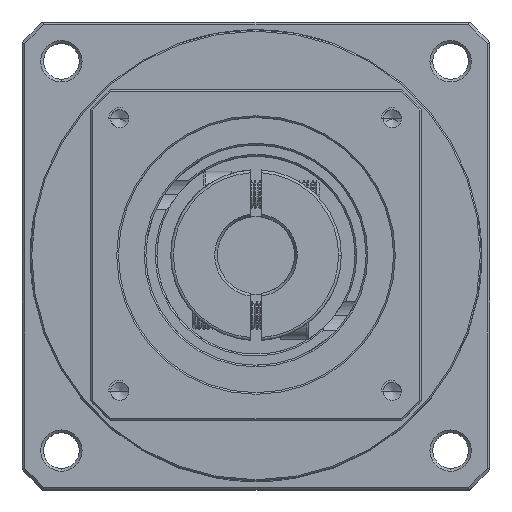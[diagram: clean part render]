
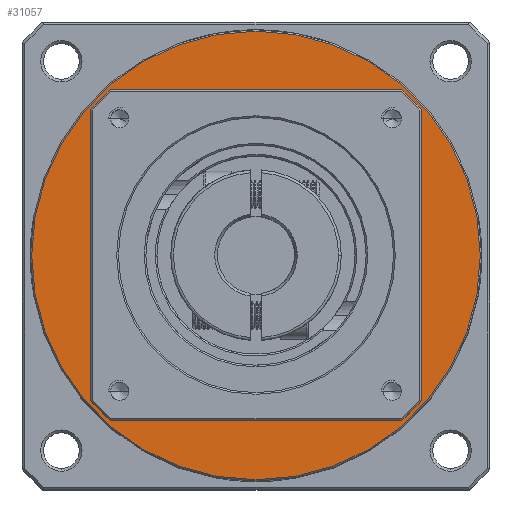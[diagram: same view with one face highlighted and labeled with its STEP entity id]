
A CAD part, top view. The second image highlights one B-rep face of the part: STEP entity #31057.
In plain terms, the highlighted planar face has unit normal (0, 0, 1).
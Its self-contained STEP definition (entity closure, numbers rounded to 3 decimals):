
#8827 = AXIS2_PLACEMENT_3D ( 'NONE', #73987, #24324, #82315 ) ;
#9789 = VERTEX_POINT ( 'NONE', #67425 ) ;
#13389 = PLANE ( 'NONE',  #22205 ) ;
#15275 = VERTEX_POINT ( 'NONE', #103029 ) ;
#15344 = VERTEX_POINT ( 'NONE', #97330 ) ;
#16767 = CARTESIAN_POINT ( 'NONE',  ( -62.127, 18.452, -15.806 ) ) ;
#22205 = AXIS2_PLACEMENT_3D ( 'NONE', #89751, #40108, #98020 ) ;
#23871 = EDGE_CURVE ( 'NONE', #93485, #15275, #72130, .T. ) ;
#24324 = DIRECTION ( 'NONE',  ( 0., 0., -1. ) ) ;
#25318 = DIRECTION ( 'NONE',  ( 0., 1., 0. ) ) ;
#28891 = ORIENTED_EDGE ( 'NONE', *, *, #33642, .F. ) ;
#30084 = FACE_OUTER_BOUND ( 'NONE', #30690, .T. ) ;
#30690 = EDGE_LOOP ( 'NONE', ( #28891, #103541 ) ) ;
#31057 = ADVANCED_FACE ( 'NONE', ( #30084, #93600 ), #13389, .T. ) ;
#32333 = CARTESIAN_POINT ( 'NONE',  ( -62.127, -22.298, -15.806 ) ) ;
#32512 = DIRECTION ( 'NONE',  ( 0., 0., -1. ) ) ;
#33163 = AXIS2_PLACEMENT_3D ( 'NONE', #82173, #32512, #90520 ) ;
#33642 = EDGE_CURVE ( 'NONE', #15275, #93485, #63924, .T. ) ;
#36668 = ORIENTED_EDGE ( 'NONE', *, *, #50720, .T. ) ;
#38660 = CIRCLE ( 'NONE', #8827, 30. ) ;
#39480 = AXIS2_PLACEMENT_3D ( 'NONE', #100962, #100939, #100811 ) ;
#40108 = DIRECTION ( 'NONE',  ( 0., 0., 1. ) ) ;
#40767 = AXIS2_PLACEMENT_3D ( 'NONE', #16767, #74958, #25318 ) ;
#45516 = CIRCLE ( 'NONE', #33163, 30. ) ;
#47673 = ORIENTED_EDGE ( 'NONE', *, *, #97584, .T. ) ;
#50720 = EDGE_CURVE ( 'NONE', #15344, #9789, #38660, .T. ) ;
#63924 = CIRCLE ( 'NONE', #40767, 40.75 ) ;
#67425 = CARTESIAN_POINT ( 'NONE',  ( -32.127, 18.452, -15.806 ) ) ;
#72130 = CIRCLE ( 'NONE', #39480, 40.75 ) ;
#73987 = CARTESIAN_POINT ( 'NONE',  ( -62.127, 18.452, -15.806 ) ) ;
#74958 = DIRECTION ( 'NONE',  ( 0., 0., -1. ) ) ;
#82173 = CARTESIAN_POINT ( 'NONE',  ( -62.127, 18.452, -15.806 ) ) ;
#82315 = DIRECTION ( 'NONE',  ( -1., 0., 0. ) ) ;
#89751 = CARTESIAN_POINT ( 'NONE',  ( -62.127, 18.452, -15.806 ) ) ;
#90520 = DIRECTION ( 'NONE',  ( -1., 0., 0. ) ) ;
#93485 = VERTEX_POINT ( 'NONE', #32333 ) ;
#93600 = FACE_BOUND ( 'NONE', #107042, .T. ) ;
#97330 = CARTESIAN_POINT ( 'NONE',  ( -92.127, 18.452, -15.806 ) ) ;
#97584 = EDGE_CURVE ( 'NONE', #9789, #15344, #45516, .T. ) ;
#98020 = DIRECTION ( 'NONE',  ( 1., 0., 0. ) ) ;
#100811 = DIRECTION ( 'NONE',  ( 0., 1., 0. ) ) ;
#100939 = DIRECTION ( 'NONE',  ( 0., 0., -1. ) ) ;
#100962 = CARTESIAN_POINT ( 'NONE',  ( -62.127, 18.452, -15.806 ) ) ;
#103029 = CARTESIAN_POINT ( 'NONE',  ( -62.127, 59.202, -15.806 ) ) ;
#103541 = ORIENTED_EDGE ( 'NONE', *, *, #23871, .F. ) ;
#107042 = EDGE_LOOP ( 'NONE', ( #36668, #47673 ) ) ;
